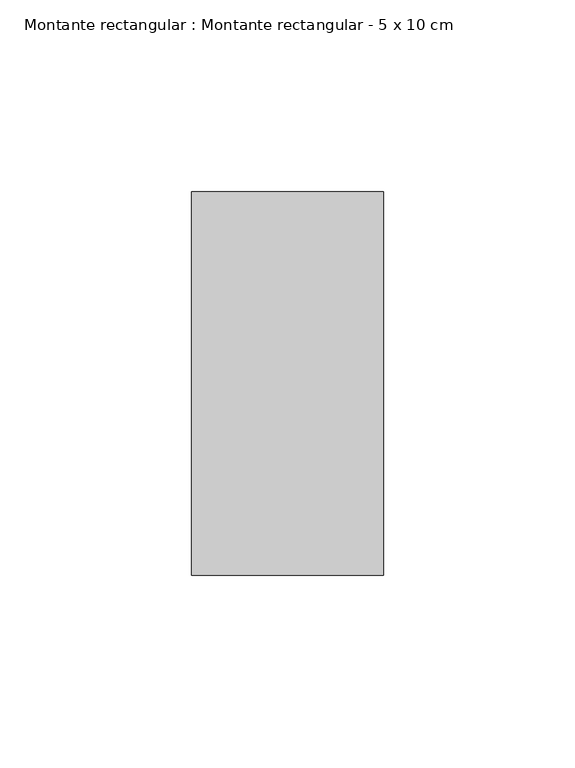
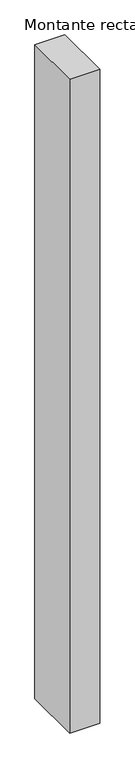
"""IFC4 building model written with IfcOpenShell, lengths in millimetres: member geometry, Montante rectangular : Montante rectangular - 5 x 10 cm."""

from ifc_helpers import new_model, si_unit, frame, origin, place, context, project, spatial, polyline, outline, extrude, source, transform, mapped, element, save


def montante_rectangular_montante_rectangular_5_x_10_cm_3057bdb5(model_context):
    return source(origin(), model_context, "Body", "SweptSolid", [
        extrude(outline(polyline([(25.0, 50.0), (25.0, -50.0), (-25.0, -50.0), (-25.0, 50.0), (25.0, 50.0)])), frame((0.0, 0.0, -1150.0), z_axis=(0.0, 0.0, 1.0), x_axis=(1.0, 0.0, 0.0)), (0.0, 0.0, 1.0), 1150.0),
    ])


if __name__ == "__main__":
    model = new_model("IFC4")
    model_context = context("Model", 3, world=origin())
    ifc_project = project(units=[si_unit("LENGTHUNIT", "METRE", prefix="MILLI")], contexts=[model_context])
    site = spatial("IfcSite", under=ifc_project)
    building = spatial("IfcBuilding", under=site)
    placement = place(None, origin())
    montante_rectangular_montante_rectangular_5_x_10_cm_shape = montante_rectangular_montante_rectangular_5_x_10_cm_3057bdb5(model_context)
    element("IfcMember", 1, ObjectType="Montante rectangular : Montante rectangular - 5 x 10 cm", at=placement, inside=building, context=model_context, shape_type="MappedRepresentation", body=[
        mapped(montante_rectangular_montante_rectangular_5_x_10_cm_shape, transform((0.0, 0.0, 0.0), x_axis=(1.0, 0.0, 0.0), y_axis=(0.0, 1.0, 0.0), z_axis=(0.0, 0.0, 1.0))),
    ])
    save(model, "model.ifc")
